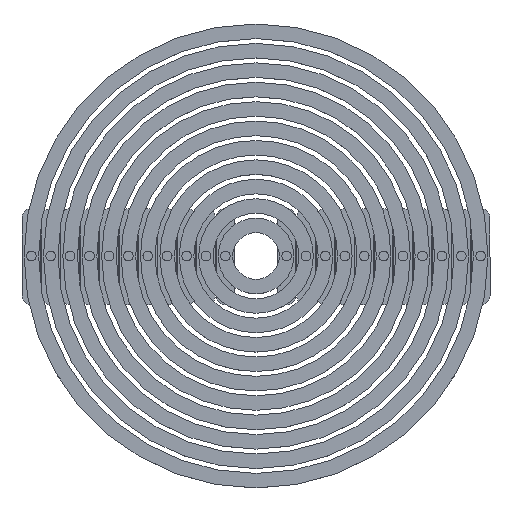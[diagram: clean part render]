
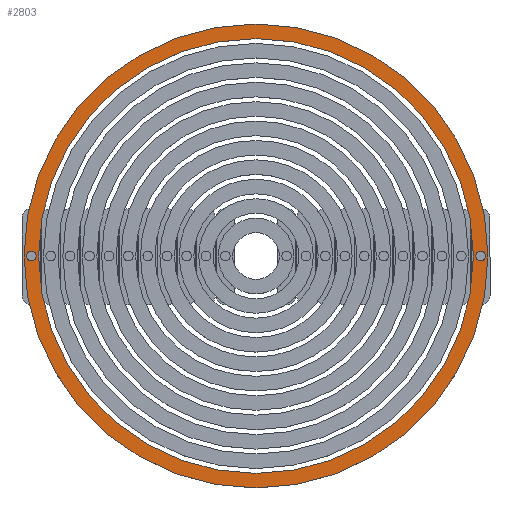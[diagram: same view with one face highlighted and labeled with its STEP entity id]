
A CAD part, top view. The second image highlights one B-rep face of the part: STEP entity #2803.
In plain terms, the highlighted planar face has unit normal (0, 0, 1).
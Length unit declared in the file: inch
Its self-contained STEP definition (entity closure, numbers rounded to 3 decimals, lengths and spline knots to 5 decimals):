
#29 = DIRECTION ( 'NONE',  ( 1., 0., 0. ) ) ;
#37 = AXIS2_PLACEMENT_3D ( 'NONE', #41, #40, #29 ) ;
#40 = DIRECTION ( 'NONE',  ( 0., 0., 1. ) ) ;
#41 = CARTESIAN_POINT ( 'NONE',  ( 0., 0., 0.125 ) ) ;
#45 = CARTESIAN_POINT ( 'NONE',  ( 2.89375, 0., 0.125 ) ) ;
#62 = CARTESIAN_POINT ( 'NONE',  ( 0., 0., 0.125 ) ) ;
#67 = DIRECTION ( 'NONE',  ( 1., 0., 0. ) ) ;
#68 = DIRECTION ( 'NONE',  ( 0., 0., 1. ) ) ;
#69 = AXIS2_PLACEMENT_3D ( 'NONE', #45, #68, #67 ) ;
#70 = CIRCLE ( 'NONE', #69, 0.0625 ) ;
#85 = CIRCLE ( 'NONE', #37, 2.8 ) ;
#89 = DIRECTION ( 'NONE',  ( 1., 0., 0. ) ) ;
#90 = DIRECTION ( 'NONE',  ( 0., 0., 1. ) ) ;
#91 = AXIS2_PLACEMENT_3D ( 'NONE', #62, #90, #89 ) ;
#92 = CIRCLE ( 'NONE', #91, 2.9875 ) ;
#199 = CARTESIAN_POINT ( 'NONE',  ( -2.89375, 0., 0.125 ) ) ;
#200 = CIRCLE ( 'NONE', #254, 0.0625 ) ;
#226 = CARTESIAN_POINT ( 'NONE',  ( 2.8, 0., 0.125 ) ) ;
#233 = CARTESIAN_POINT ( 'NONE',  ( -2.8, 0., 0.125 ) ) ;
#234 = DIRECTION ( 'NONE',  ( 1., 0., 0. ) ) ;
#235 = DIRECTION ( 'NONE',  ( 0., 0., 1. ) ) ;
#252 = DIRECTION ( 'NONE',  ( 1., 0., 0. ) ) ;
#253 = DIRECTION ( 'NONE',  ( 0., 0., 1. ) ) ;
#254 = AXIS2_PLACEMENT_3D ( 'NONE', #199, #253, #252 ) ;
#255 = CARTESIAN_POINT ( 'NONE',  ( 0., 0., 0.125 ) ) ;
#256 = AXIS2_PLACEMENT_3D ( 'NONE', #255, #235, #234 ) ;
#257 = CIRCLE ( 'NONE', #256, 2.8 ) ;
#274 = CARTESIAN_POINT ( 'NONE',  ( -2.9875, 0., 0.125 ) ) ;
#275 = DIRECTION ( 'NONE',  ( 1., 0., 0. ) ) ;
#276 = DIRECTION ( 'NONE',  ( 0., 0., 1. ) ) ;
#277 = CARTESIAN_POINT ( 'NONE',  ( 0., 0., 0.125 ) ) ;
#278 = AXIS2_PLACEMENT_3D ( 'NONE', #277, #276, #275 ) ;
#279 = CIRCLE ( 'NONE', #278, 2.9875 ) ;
#2803 = ADVANCED_FACE ( 'NONE', ( #2981, #2980, #2979, #2978 ), #2977, .T. ) ;
#2804 = EDGE_LOOP ( 'NONE', ( #3035, #3016 ) ) ;
#2901 = EDGE_LOOP ( 'NONE', ( #2903, #2906 ) ) ;
#2903 = ORIENTED_EDGE ( 'NONE', *, *, #3086, .F. ) ;
#2906 = ORIENTED_EDGE ( 'NONE', *, *, #2915, .F. ) ;
#2915 = EDGE_CURVE ( 'NONE', #3090, #3087, #85, .T. ) ;
#2929 = ORIENTED_EDGE ( 'NONE', *, *, #3066, .T. ) ;
#2936 = EDGE_LOOP ( 'NONE', ( #2938, #2929 ) ) ;
#2938 = ORIENTED_EDGE ( 'NONE', *, *, #2940, .T. ) ;
#2940 = EDGE_CURVE ( 'NONE', #3074, #3112, #92, .T. ) ;
#2945 = ORIENTED_EDGE ( 'NONE', *, *, #3730, .F. ) ;
#2968 = ORIENTED_EDGE ( 'NONE', *, *, #3005, .F. ) ;
#2969 = EDGE_LOOP ( 'NONE', ( #2968, #2945 ) ) ;
#2973 = DIRECTION ( 'NONE',  ( 1., 0., 0. ) ) ;
#2974 = DIRECTION ( 'NONE',  ( 0., 0., 1. ) ) ;
#2975 = CARTESIAN_POINT ( 'NONE',  ( 0., 0., 0.125 ) ) ;
#2976 = AXIS2_PLACEMENT_3D ( 'NONE', #2975, #2974, #2973 ) ;
#2977 = PLANE ( 'NONE',  #2976 ) ;
#2978 = FACE_BOUND ( 'NONE', #2901, .T. ) ;
#2979 = FACE_OUTER_BOUND ( 'NONE', #2936, .T. ) ;
#2980 = FACE_BOUND ( 'NONE', #2969, .T. ) ;
#2981 = FACE_BOUND ( 'NONE', #2804, .T. ) ;
#3005 = EDGE_CURVE ( 'NONE', #3732, #3889, #70, .T. ) ;
#3016 = ORIENTED_EDGE ( 'NONE', *, *, #3745, .F. ) ;
#3026 = EDGE_CURVE ( 'NONE', #3855, #3753, #200, .T. ) ;
#3035 = ORIENTED_EDGE ( 'NONE', *, *, #3026, .F. ) ;
#3066 = EDGE_CURVE ( 'NONE', #3112, #3074, #279, .T. ) ;
#3074 = VERTEX_POINT ( 'NONE', #274 ) ;
#3086 = EDGE_CURVE ( 'NONE', #3087, #3090, #257, .T. ) ;
#3087 = VERTEX_POINT ( 'NONE', #233 ) ;
#3090 = VERTEX_POINT ( 'NONE', #226 ) ;
#3112 = VERTEX_POINT ( 'NONE', #6265 ) ;
#3730 = EDGE_CURVE ( 'NONE', #3889, #3732, #7291, .T. ) ;
#3732 = VERTEX_POINT ( 'NONE', #7285 ) ;
#3745 = EDGE_CURVE ( 'NONE', #3753, #3855, #7268, .T. ) ;
#3753 = VERTEX_POINT ( 'NONE', #7345 ) ;
#3855 = VERTEX_POINT ( 'NONE', #7555 ) ;
#3889 = VERTEX_POINT ( 'NONE', #7640 ) ;
#6265 = CARTESIAN_POINT ( 'NONE',  ( 2.9875, 0., 0.125 ) ) ;
#7264 = DIRECTION ( 'NONE',  ( 1., 0., 0. ) ) ;
#7265 = DIRECTION ( 'NONE',  ( 0., 0., 1. ) ) ;
#7266 = CARTESIAN_POINT ( 'NONE',  ( -2.89375, 0., 0.125 ) ) ;
#7267 = AXIS2_PLACEMENT_3D ( 'NONE', #7266, #7265, #7264 ) ;
#7268 = CIRCLE ( 'NONE', #7267, 0.0625 ) ;
#7285 = CARTESIAN_POINT ( 'NONE',  ( 2.95625, 0., 0.125 ) ) ;
#7287 = DIRECTION ( 'NONE',  ( 1., 0., 0. ) ) ;
#7288 = DIRECTION ( 'NONE',  ( 0., 0., 1. ) ) ;
#7289 = CARTESIAN_POINT ( 'NONE',  ( 2.89375, 0., 0.125 ) ) ;
#7290 = AXIS2_PLACEMENT_3D ( 'NONE', #7289, #7288, #7287 ) ;
#7291 = CIRCLE ( 'NONE', #7290, 0.0625 ) ;
#7345 = CARTESIAN_POINT ( 'NONE',  ( -2.95625, 0., 0.125 ) ) ;
#7555 = CARTESIAN_POINT ( 'NONE',  ( -2.83125, 0., 0.125 ) ) ;
#7640 = CARTESIAN_POINT ( 'NONE',  ( 2.83125, 0., 0.125 ) ) ;
